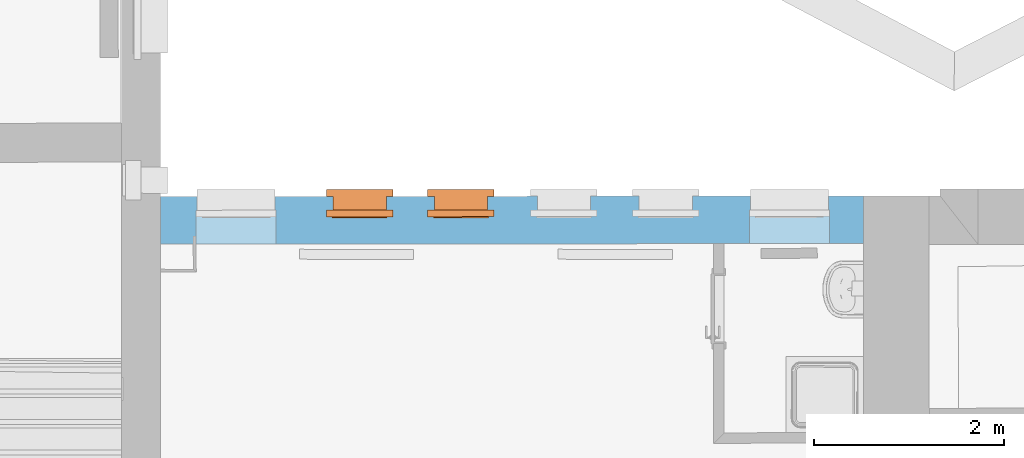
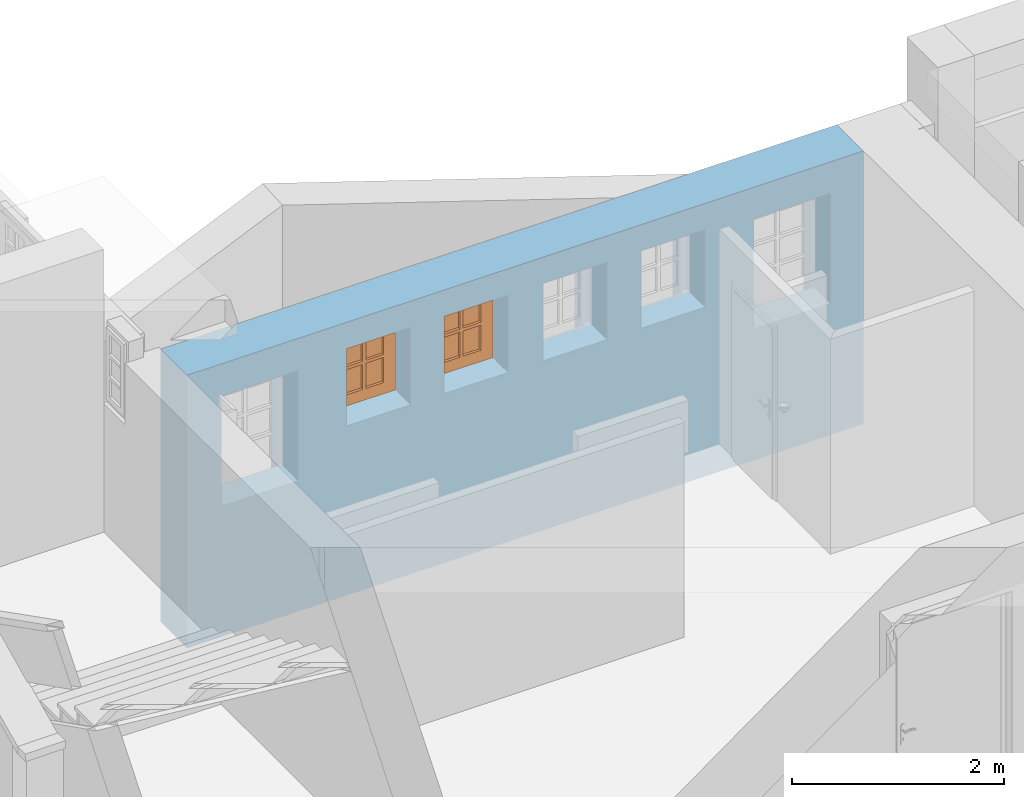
# One storey, part 44 of 196: 2 proxies, 6 openings, plus 1 element that does not belong to this part.
"""IFC2X3 building model written with IfcOpenShell, lengths in metres."""

from ifc_helpers import new_model, entity, si_unit, converted_unit, derived_unit, money_unit, direction, frame, origin_with_axes, origin_2d_with_axis, place, context, subcontext, project, spatial, polyline, rectangle, outline, extrude, boolean, faceted_brep, source, transform, mapped, material, type_object, element, fill, save


model = new_model("IFC2X3")

# Units and contexts
model_context = context("Model", 3, precision=1e-05, world=origin_with_axes(), true_north=direction((0.0, 1.0)))
body_context = subcontext(model_context, "Body", "Model", "MODEL_VIEW")
ifc_project = project(units=[si_unit("LENGTHUNIT", "METRE"), si_unit("AREAUNIT", "SQUARE_METRE"), si_unit("VOLUMEUNIT", "CUBIC_METRE"), converted_unit("PLANEANGLEUNIT", "DEGREE", entity("IfcPlaneAngleMeasure", 0.0174532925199), si_unit("PLANEANGLEUNIT", "RADIAN"), dimensions=[0, 0, 0, 0, 0, 0, 0]), money_unit("EUR"), converted_unit("TIMEUNIT", "Year", entity("IfcTimeMeasure", 31556926.0), si_unit("TIMEUNIT", "SECOND"), dimensions=[0, 0, 1, 0, 0, 0, 0]), si_unit("MASSUNIT", "GRAM", prefix="KILO"), si_unit("THERMODYNAMICTEMPERATUREUNIT", "DEGREE_CELSIUS"), si_unit("LUMINOUSINTENSITYUNIT", "LUMEN"), si_unit("ENERGYUNIT", "JOULE", prefix="MEGA"), derived_unit("THERMALCONDUCTANCEUNIT", [(si_unit("POWERUNIT", "WATT"), 1), (si_unit("LENGTHUNIT", "METRE"), -1), (si_unit("THERMODYNAMICTEMPERATUREUNIT", "KELVIN"), -1)]), derived_unit("SPECIFICHEATCAPACITYUNIT", [(si_unit("ENERGYUNIT", "JOULE"), 1), (si_unit("MASSUNIT", "GRAM", prefix="KILO"), -1), (si_unit("THERMODYNAMICTEMPERATUREUNIT", "KELVIN"), -1)]), derived_unit("MASSDENSITYUNIT", [(si_unit("MASSUNIT", "GRAM", prefix="KILO"), 1), (si_unit("VOLUMEUNIT", "CUBIC_METRE"), -1)])], contexts=[model_context])

# Site, building, storey
site_placement = place(None, origin_with_axes())
site = spatial("IfcSite", under=ifc_project, at=site_placement, Name="Gelände", CompositionType="ELEMENT")
building_placement = place(site_placement, origin_with_axes())
building = spatial("IfcBuilding", under=site, at=building_placement, Name="Gebäude", CompositionType="ELEMENT")
storey_placement = place(building_placement, frame((0.0, 0.0, -3.0), z_axis=(0.0, 0.0, 1.0), x_axis=(1.0, 0.0, 0.0)))
storey = spatial("IfcBuildingStorey", under=building, at=storey_placement, Name="KELLERGESCHOSS", CompositionType="ELEMENT", Elevation=-3.0)

# Wall, openings, proxies
ifc_material = material(Name="05_ALLGEMEIN - TRAGENDE BAUTEILE")
wall_type = type_object("IfcWallType", Name="05_ALLGEMEIN - TRAGENDE BAUTEILE 500", PredefinedType="ELEMENTEDWALL")
wall_placement = place(storey_placement, frame((3.61400674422, 26.1135259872, -0.36), z_axis=(0.0, 0.0, 1.0), x_axis=(-0.99999977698, -0.000667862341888, 0.0)))
wall = element("IfcWall", 1, at=wall_placement, inside=storey, type_object=wall_type, material=ifc_material, Name="Wand-030", ObjectType="ELEMENTEDWALL", context=body_context, shape_type="CSG", body=[
    boolean("DIFFERENCE", boolean("DIFFERENCE", extrude(outline(polyline([(-0.000183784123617, 0.0), (8.48688919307, 0.0), (8.48688919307, 0.5), (-0.000183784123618, 0.5), (-0.000183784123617, 0.0)])), origin_with_axes(), (0.0, 0.0, 1.0), 3.15), faceted_brep([(8.07688894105, 0.5, 3.15), (8.07633455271, 0.0, 3.15), (8.48688919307, 0.0, 3.15), (8.48688919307, 0.5, 3.15), (8.07633455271, 0.0, 0.0), (8.07688894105, 0.5, 0.0), (8.48688919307, 0.0, 0.0), (8.48688919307, 0.5, 0.0)], [[[0, 1, 2, 3]], [[4, 1, 0, 5]], [[1, 4, 6, 2]], [[2, 6, 7, 3]], [[5, 0, 3, 7]], [[4, 5, 7, 6]]])), faceted_brep([(0.690000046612, 0.0, 3.15), (0.689816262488, 0.5, 3.15), (-0.000183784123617, 0.5, 3.15), (-0.000183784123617, 0.0, 3.15), (0.689816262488, 0.5, 0.0), (0.690000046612, 0.0, 0.0), (-0.000183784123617, 0.5, 0.0), (-0.000183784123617, 0.0, 0.0)], [[[0, 1, 2, 3]], [[4, 1, 0, 5]], [[1, 4, 6, 2]], [[2, 6, 7, 3]], [[5, 0, 3, 7]], [[4, 5, 7, 6]]])),
])
opening_1_placement = place(wall_placement, frame((1.46772297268, 0.0, 1.51287387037), z_axis=(0.0, 0.0, 1.0), x_axis=(1.0, 0.0, 0.0)))
element("IfcOpeningElement", 2, at=opening_1_placement, cuts=wall, Name="Fenster-015", context=body_context, shape_type="SweptSolid", body=[
    extrude(rectangle(XDim=0.84, YDim=1.275, at=origin_2d_with_axis()), frame((0.0, 0.145, 0.6375), z_axis=(0.0, -1.0, 0.0), x_axis=(1.0, 0.0, 0.0)), (0.0, 0.0, -1.0), 0.855),
    extrude(rectangle(XDim=0.82, YDim=1.265, at=origin_2d_with_axis()), frame((0.0, 0.145, 0.6325), z_axis=(0.0, 1.0, 0.0), x_axis=(1.0, 0.0, 0.0)), (0.0, 0.0, -1.0), 0.645),
    extrude(rectangle(XDim=0.82, YDim=0.150945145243, at=origin_2d_with_axis()), frame((0.0, 0.18583778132, -0.0754725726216), z_axis=(0.0, 1.0, 0.0), x_axis=(1.0, 0.0, 0.0)), (0.0, 0.0, -1.0), 0.54083778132),
])
opening_2_placement = place(wall_placement, frame((7.28240772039, 0.0, 1.50385387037), z_axis=(0.0, 0.0, 1.0), x_axis=(1.0, 0.0, 0.0)))
element("IfcOpeningElement", 3, at=opening_2_placement, cuts=wall, Name="Fenster-015", context=body_context, shape_type="SweptSolid", body=[
    extrude(rectangle(XDim=0.84, YDim=1.275, at=origin_2d_with_axis()), frame((0.0, 0.145, 0.6375), z_axis=(0.0, -1.0, 0.0), x_axis=(1.0, 0.0, 0.0)), (0.0, 0.0, -1.0), 0.855),
    extrude(rectangle(XDim=0.82, YDim=1.265, at=origin_2d_with_axis()), frame((0.0, 0.145, 0.6325), z_axis=(0.0, 1.0, 0.0), x_axis=(1.0, 0.0, 0.0)), (0.0, 0.0, -1.0), 0.645),
    extrude(rectangle(XDim=0.82, YDim=0.150945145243, at=origin_2d_with_axis()), frame((0.0, 0.18583778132, -0.0754725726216), z_axis=(0.0, 1.0, 0.0), x_axis=(1.0, 0.0, 0.0)), (0.0, 0.0, -1.0), 0.54083778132),
])
opening_3_placement = place(wall_placement, frame((2.76771351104, 0.0, 1.95338403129), z_axis=(0.0, 0.0, 1.0), x_axis=(1.0, 0.0, 0.0)))
element("IfcOpeningElement", 4, at=opening_3_placement, cuts=wall, Name="Fenster-015", context=body_context, shape_type="SweptSolid", body=[
    extrude(rectangle(XDim=0.699, YDim=0.895160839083, at=origin_2d_with_axis()), frame((0.0, 0.145, 0.447580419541), z_axis=(0.0, -1.0, 0.0), x_axis=(1.0, 0.0, 0.0)), (0.0, 0.0, -1.0), 0.855),
    extrude(rectangle(XDim=0.559, YDim=0.825160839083, at=origin_2d_with_axis()), frame((0.0, 0.145, 0.412580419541), z_axis=(0.0, 1.0, 0.0), x_axis=(1.0, 0.0, 0.0)), (0.0, 0.0, -1.0), 0.645),
    extrude(rectangle(XDim=0.559, YDim=0.150945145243, at=origin_2d_with_axis()), frame((0.0, 0.18583778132, -0.0754725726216), z_axis=(0.0, 1.0, 0.0), x_axis=(1.0, 0.0, 0.0)), (0.0, 0.0, -1.0), 0.54083778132),
])
opening_4_placement = place(wall_placement, frame((3.8379340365, 0.0, 1.95338403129), z_axis=(0.0, 0.0, 1.0), x_axis=(1.0, 0.0, 0.0)))
element("IfcOpeningElement", 5, at=opening_4_placement, cuts=wall, Name="Fenster-015", context=body_context, shape_type="SweptSolid", body=[
    extrude(rectangle(XDim=0.699, YDim=0.895160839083, at=origin_2d_with_axis()), frame((0.0, 0.145, 0.447580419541), z_axis=(0.0, -1.0, 0.0), x_axis=(1.0, 0.0, 0.0)), (0.0, 0.0, -1.0), 0.855),
    extrude(rectangle(XDim=0.559, YDim=0.825160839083, at=origin_2d_with_axis()), frame((0.0, 0.145, 0.412580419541), z_axis=(0.0, 1.0, 0.0), x_axis=(1.0, 0.0, 0.0)), (0.0, 0.0, -1.0), 0.645),
    extrude(rectangle(XDim=0.559, YDim=0.150945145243, at=origin_2d_with_axis()), frame((0.0, 0.18583778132, -0.0754725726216), z_axis=(0.0, 1.0, 0.0), x_axis=(1.0, 0.0, 0.0)), (0.0, 0.0, -1.0), 0.54083778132),
])
opening_5_placement = place(wall_placement, frame((4.92027128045, 0.0, 1.95338403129), z_axis=(0.0, 0.0, 1.0), x_axis=(1.0, 0.0, 0.0)))
opening_5 = element("IfcOpeningElement", 6, at=opening_5_placement, cuts=wall, Name="Fenster-015", context=body_context, shape_type="SweptSolid", body=[
    extrude(rectangle(XDim=0.699, YDim=0.895160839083, at=origin_2d_with_axis()), frame((0.0, 0.145, 0.447580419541), z_axis=(0.0, -1.0, 0.0), x_axis=(1.0, 0.0, 0.0)), (0.0, 0.0, -1.0), 0.855),
    extrude(rectangle(XDim=0.559, YDim=0.825160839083, at=origin_2d_with_axis()), frame((0.0, 0.145, 0.412580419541), z_axis=(0.0, 1.0, 0.0), x_axis=(1.0, 0.0, 0.0)), (0.0, 0.0, -1.0), 0.645),
    extrude(rectangle(XDim=0.559, YDim=0.150945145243, at=origin_2d_with_axis()), frame((0.0, 0.18583778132, -0.0754725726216), z_axis=(0.0, 1.0, 0.0), x_axis=(1.0, 0.0, 0.0)), (0.0, 0.0, -1.0), 0.54083778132),
])
opening_6_placement = place(wall_placement, frame((5.9839098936, 0.0, 1.95338403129), z_axis=(0.0, 0.0, 1.0), x_axis=(1.0, 0.0, 0.0)))
opening_6 = element("IfcOpeningElement", 7, at=opening_6_placement, cuts=wall, Name="Fenster-015", context=body_context, shape_type="SweptSolid", body=[
    extrude(rectangle(XDim=0.699, YDim=0.895160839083, at=origin_2d_with_axis()), frame((0.0, 0.145, 0.447580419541), z_axis=(0.0, -1.0, 0.0), x_axis=(1.0, 0.0, 0.0)), (0.0, 0.0, -1.0), 0.855),
    extrude(rectangle(XDim=0.559, YDim=0.825160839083, at=origin_2d_with_axis()), frame((0.0, 0.145, 0.412580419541), z_axis=(0.0, 1.0, 0.0), x_axis=(1.0, 0.0, 0.0)), (0.0, 0.0, -1.0), 0.645),
    extrude(rectangle(XDim=0.559, YDim=0.150945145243, at=origin_2d_with_axis()), frame((0.0, 0.18583778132, -0.0754725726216), z_axis=(0.0, 1.0, 0.0), x_axis=(1.0, 0.0, 0.0)), (0.0, 0.0, -1.0), 0.54083778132),
])
building_element_proxy_type = type_object("IfcBuildingElementProxyType", Name="1-Flügelfenster 25", PredefinedType="NOTDEFINED")
shared_shape = source(origin_with_axes(), body_context, "Body", "Brep", [
    faceted_brep([(0.3495, -0.215, -0.150945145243), (0.3495, -0.215, -0.0290939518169), (0.3495, -0.28583778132, -0.0415845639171), (0.3495, -0.265, -0.159761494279), (0.2795, -0.215, -0.0290939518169), (0.2795, -0.215, -0.150945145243), (0.2795, -0.05, 0.0), (-0.2795, -0.05, 0.0), (-0.2795, -0.215, -0.0290939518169), (-0.3495, -0.215, -0.0290939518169), (-0.3495, -0.28583778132, -0.0415845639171), (-0.3495, -0.265, -0.159761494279), (-0.3495, -0.215, -0.150945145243), (-0.2795, -0.215, -0.150945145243), (-0.2795, -0.02916221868, -0.118176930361), (0.2795, -0.02916221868, -0.118176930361)], [[[0, 1, 2, 3]], [[4, 1, 0, 5]], [[4, 6, 7, 8, 9, 10, 2, 1]], [[3, 2, 10, 11]], [[5, 0, 3, 11, 12, 13, 14, 15]], [[15, 6, 4, 5]], [[6, 15, 14, 7]], [[7, 14, 13, 8]], [[8, 13, 12, 9]], [[12, 11, 10, 9]]]),
    faceted_brep([(-0.3495, -0.07, 0.0), (-0.3495, 0.0, 0.0), (-0.2695, 0.0, 0.08), (-0.2695, -0.07, 0.08), (-0.3495, -0.07, 0.895160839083), (-0.3495, 0.0, 0.895160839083), (-0.2695, 0.0, 0.815160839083), (-0.2695, -0.07, 0.815160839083)], [[[0, 1, 2, 3]], [[4, 5, 1, 0]], [[1, 5, 6, 2]], [[3, 2, 6, 7]], [[0, 3, 7, 4]], [[7, 6, 5, 4]]]),
    faceted_brep([(0.3495, -0.07, 0.0), (0.3495, 0.0, 0.0), (0.3495, 0.0, 0.895160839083), (0.3495, -0.07, 0.895160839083), (0.2695, -0.07, 0.08), (0.2695, 0.0, 0.08), (0.2695, 0.0, 0.815160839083), (0.2695, -0.07, 0.815160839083)], [[[0, 1, 2, 3]], [[4, 5, 1, 0]], [[1, 5, 6, 2]], [[3, 2, 6, 7]], [[0, 3, 7, 4]], [[7, 6, 5, 4]]]),
    faceted_brep([(-0.3495, -0.07, 0.0), (-0.3495, 0.0, 0.0), (0.3495, 0.0, 0.0), (0.3495, -0.07, 0.0), (-0.2695, -0.07, 0.08), (-0.2695, 0.0, 0.08), (0.0, 0.0, 0.08), (0.2695, 0.0, 0.08), (0.2695, -0.07, 0.08), (0.0, -0.07, 0.08)], [[[0, 1, 2, 3]], [[4, 5, 1, 0]], [[1, 5, 6, 7, 2]], [[3, 2, 7, 8]], [[0, 3, 8, 9, 4]], [[9, 6, 5, 4]], [[8, 7, 6, 9]]]),
    faceted_brep([(-0.3495, -0.07, 0.895160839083), (-0.3495, 0.0, 0.895160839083), (-0.2695, 0.0, 0.815160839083), (-0.2695, -0.07, 0.815160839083), (0.3495, -0.07, 0.895160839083), (0.3495, 0.0, 0.895160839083), (0.2695, 0.0, 0.815160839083), (0.0, 0.0, 0.815160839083), (0.0, -0.07, 0.815160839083), (0.2695, -0.07, 0.815160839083)], [[[0, 1, 2, 3]], [[4, 5, 1, 0]], [[1, 5, 6, 7, 2]], [[3, 2, 7, 8]], [[0, 3, 8, 9, 4]], [[9, 6, 5, 4]], [[8, 7, 6, 9]]]),
    faceted_brep([(-0.2895, 0.0, 0.06), (-0.2895, 0.013, 0.06), (-0.2095, 0.013, 0.14), (-0.2095, 0.0, 0.14), (-0.2895, 0.0, 0.835160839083), (-0.2895, 0.013, 0.835160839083), (-0.2095, 0.013, 0.755160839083), (-0.2095, 0.0, 0.755160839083)], [[[0, 1, 2, 3]], [[4, 5, 1, 0]], [[1, 5, 6, 2]], [[3, 2, 6, 7]], [[0, 3, 7, 4]], [[7, 6, 5, 4]]]),
    faceted_brep([(0.2895, 0.0, 0.06), (0.2095, 0.0, 0.14), (0.2095, 0.013, 0.14), (0.2895, 0.013, 0.06), (0.2895, 0.0, 0.835160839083), (0.2095, 0.0, 0.755160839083), (0.2095, 0.013, 0.755160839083), (0.2895, 0.013, 0.835160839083)], [[[0, 1, 2, 3]], [[0, 4, 5, 1]], [[1, 5, 6, 2]], [[3, 2, 6, 7]], [[4, 0, 3, 7]], [[5, 4, 7, 6]]]),
    faceted_brep([(-0.2895, 0.0, 0.06), (-0.2895, 0.013, 0.06), (0.2895, 0.013, 0.06), (0.2895, 0.0, 0.06), (-0.2095, 0.0, 0.14), (-0.2095, 0.013, 0.14), (0.2095, 0.013, 0.14), (0.2095, 0.0, 0.14)], [[[0, 1, 2, 3]], [[4, 5, 1, 0]], [[1, 5, 6, 2]], [[3, 2, 6, 7]], [[0, 3, 7, 4]], [[7, 6, 5, 4]]]),
    faceted_brep([(-0.2895, 0.0, 0.835160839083), (0.2895, 0.0, 0.835160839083), (0.2895, 0.013, 0.835160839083), (-0.2895, 0.013, 0.835160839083), (-0.2095, 0.0, 0.755160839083), (0.2095, 0.0, 0.755160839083), (0.2095, 0.013, 0.755160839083), (-0.2095, 0.013, 0.755160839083)], [[[0, 1, 2, 3]], [[0, 4, 5, 1]], [[1, 5, 6, 2]], [[3, 2, 6, 7]], [[4, 0, 3, 7]], [[5, 4, 7, 6]]]),
    faceted_brep([(-0.2695, -0.057, 0.08), (-0.2695, 0.0, 0.08), (-0.2095, 0.0, 0.14), (-0.2095, -0.057, 0.14), (-0.2695, -0.057, 0.815160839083), (-0.2695, 0.0, 0.815160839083), (-0.2095, 0.0, 0.755160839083), (-0.2095, -0.057, 0.755160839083)], [[[0, 1, 2, 3]], [[4, 5, 1, 0]], [[1, 5, 6, 2]], [[3, 2, 6, 7]], [[0, 3, 7, 4]], [[7, 6, 5, 4]]]),
    faceted_brep([(0.2695, -0.057, 0.08), (0.2095, -0.057, 0.14), (0.2095, 0.0, 0.14), (0.2695, 0.0, 0.08), (0.2695, -0.057, 0.815160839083), (0.2095, -0.057, 0.755160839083), (0.2095, 0.0, 0.755160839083), (0.2695, 0.0, 0.815160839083)], [[[0, 1, 2, 3]], [[0, 4, 5, 1]], [[1, 5, 6, 2]], [[3, 2, 6, 7]], [[4, 0, 3, 7]], [[5, 4, 7, 6]]]),
    faceted_brep([(-0.2695, -0.057, 0.08), (-0.2695, 0.0, 0.08), (0.2695, 0.0, 0.08), (0.2695, -0.057, 0.08), (-0.2095, -0.057, 0.14), (-0.2095, 0.0, 0.14), (0.2095, 0.0, 0.14), (0.2095, -0.057, 0.14)], [[[0, 1, 2, 3]], [[4, 5, 1, 0]], [[1, 5, 6, 2]], [[3, 2, 6, 7]], [[0, 3, 7, 4]], [[7, 6, 5, 4]]]),
    faceted_brep([(-0.2695, -0.057, 0.815160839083), (0.2695, -0.057, 0.815160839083), (0.2695, 0.0, 0.815160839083), (-0.2695, 0.0, 0.815160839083), (-0.2095, -0.057, 0.755160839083), (0.2095, -0.057, 0.755160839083), (0.2095, 0.0, 0.755160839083), (-0.2095, 0.0, 0.755160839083)], [[[0, 1, 2, 3]], [[0, 4, 5, 1]], [[1, 5, 6, 2]], [[3, 2, 6, 7]], [[4, 0, 3, 7]], [[5, 4, 7, 6]]]),
    faceted_brep([(-0.0175, -0.057, 0.14), (-0.0175, -0.022, 0.14), (0.0175, -0.022, 0.14), (0.0175, -0.057, 0.14), (-0.0175, -0.057, 0.755160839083), (-0.0175, -0.022, 0.755160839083), (0.0175, -0.022, 0.755160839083), (0.0175, -0.057, 0.755160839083)], [[[0, 1, 2, 3]], [[4, 5, 1, 0]], [[1, 5, 6, 2]], [[3, 2, 6, 7]], [[0, 3, 7, 4]], [[7, 6, 5, 4]]]),
    faceted_brep([(-0.0175, -0.022, 0.14), (-0.0175, 0.013, 0.14), (0.0175, 0.013, 0.14), (0.0175, -0.022, 0.14), (-0.0175, -0.022, 0.755160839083), (-0.0175, 0.013, 0.755160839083), (0.0175, 0.013, 0.755160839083), (0.0175, -0.022, 0.755160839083)], [[[0, 1, 2, 3]], [[4, 5, 1, 0]], [[1, 5, 6, 2]], [[3, 2, 6, 7]], [[0, 3, 7, 4]], [[7, 6, 5, 4]]]),
    faceted_brep([(-0.0175, -0.057, 0.430080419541), (-0.0175, -0.057, 0.465080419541), (-0.2095, -0.057, 0.465080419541), (-0.2095, -0.057, 0.430080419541), (-0.0175, -0.022, 0.465080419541), (-0.0175, -0.022, 0.430080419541), (-0.2095, -0.022, 0.465080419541), (-0.2095, -0.022, 0.430080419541)], [[[0, 1, 2, 3]], [[4, 1, 0, 5]], [[1, 4, 6, 2]], [[6, 7, 3, 2]], [[5, 0, 3, 7]], [[4, 5, 7, 6]]]),
    faceted_brep([(0.0175, -0.022, 0.465080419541), (0.0175, -0.057, 0.465080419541), (0.2095, -0.057, 0.465080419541), (0.2095, -0.022, 0.465080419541), (0.0175, -0.057, 0.430080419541), (0.0175, -0.022, 0.430080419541), (0.2095, -0.057, 0.430080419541), (0.2095, -0.022, 0.430080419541)], [[[0, 1, 2, 3]], [[4, 1, 0, 5]], [[1, 4, 6, 2]], [[7, 3, 2, 6]], [[5, 0, 3, 7]], [[4, 5, 7, 6]]]),
    faceted_brep([(-0.0175, -0.022, 0.430080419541), (-0.0175, -0.022, 0.465080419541), (-0.2095, -0.022, 0.465080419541), (-0.2095, -0.022, 0.430080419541), (-0.0175, 0.013, 0.465080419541), (-0.0175, 0.013, 0.430080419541), (-0.2095, 0.013, 0.465080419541), (-0.2095, 0.013, 0.430080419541)], [[[0, 1, 2, 3]], [[4, 1, 0, 5]], [[1, 4, 6, 2]], [[6, 7, 3, 2]], [[5, 0, 3, 7]], [[4, 5, 7, 6]]]),
    faceted_brep([(0.0175, 0.013, 0.465080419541), (0.0175, -0.022, 0.465080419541), (0.2095, -0.022, 0.465080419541), (0.2095, 0.013, 0.465080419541), (0.0175, -0.022, 0.430080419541), (0.0175, 0.013, 0.430080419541), (0.2095, -0.022, 0.430080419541), (0.2095, 0.013, 0.430080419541)], [[[0, 1, 2, 3]], [[4, 1, 0, 5]], [[1, 4, 6, 2]], [[7, 3, 2, 6]], [[5, 0, 3, 7]], [[4, 5, 7, 6]]]),
    faceted_brep([(0.2095, -0.017, 0.430080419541), (0.2095, -0.027, 0.430080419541), (0.2095, -0.027, 0.14), (0.2095, -0.017, 0.14), (0.0175, -0.027, 0.430080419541), (0.0175, -0.017, 0.430080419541), (0.0175, -0.027, 0.14), (0.0175, -0.017, 0.14)], [[[0, 1, 2, 3]], [[4, 1, 0, 5]], [[1, 4, 6, 2]], [[7, 3, 2, 6]], [[5, 0, 3, 7]], [[4, 5, 7, 6]]]),
    faceted_brep([(-0.0175, -0.017, 0.430080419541), (-0.0175, -0.027, 0.430080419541), (-0.0175, -0.027, 0.14), (-0.0175, -0.017, 0.14), (-0.2095, -0.027, 0.430080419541), (-0.2095, -0.017, 0.430080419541), (-0.2095, -0.027, 0.14), (-0.2095, -0.017, 0.14)], [[[0, 1, 2, 3]], [[4, 1, 0, 5]], [[1, 4, 6, 2]], [[2, 6, 7, 3]], [[5, 0, 3, 7]], [[4, 5, 7, 6]]]),
    faceted_brep([(0.0175, -0.027, 0.465080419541), (0.2095, -0.027, 0.465080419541), (0.2095, -0.027, 0.755160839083), (0.0175, -0.027, 0.755160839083), (0.2095, -0.017, 0.465080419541), (0.0175, -0.017, 0.465080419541), (0.2095, -0.017, 0.755160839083), (0.0175, -0.017, 0.755160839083)], [[[0, 1, 2, 3]], [[4, 1, 0, 5]], [[1, 4, 6, 2]], [[3, 2, 6, 7]], [[5, 0, 3, 7]], [[4, 5, 7, 6]]]),
    faceted_brep([(-0.2095, -0.027, 0.465080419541), (-0.0175, -0.027, 0.465080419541), (-0.0175, -0.027, 0.755160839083), (-0.2095, -0.027, 0.755160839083), (-0.0175, -0.017, 0.465080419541), (-0.2095, -0.017, 0.465080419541), (-0.0175, -0.017, 0.755160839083), (-0.2095, -0.017, 0.755160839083)], [[[0, 1, 2, 3]], [[4, 1, 0, 5]], [[1, 4, 6, 2]], [[6, 7, 3, 2]], [[5, 0, 3, 7]], [[4, 5, 7, 6]]]),
])
proxy_1_placement = place(opening_5_placement, frame((-0.3495, 0.0, 0.0), z_axis=(0.0, 0.0, 1.0), x_axis=(1.0, 0.0, 0.0)))
proxy_1 = element("IfcBuildingElementProxy", 8, at=proxy_1_placement, inside=storey, type_object=building_element_proxy_type, Name="Fenster-015", context=body_context, shape_type="MappedRepresentation", body=[
    mapped(shared_shape, transform((0.3495, 0.215, 0.0))),
])
fill(opening_5, proxy_1)
proxy_2_placement = place(opening_6_placement, frame((-0.3495, 0.0, 0.0), z_axis=(0.0, 0.0, 1.0), x_axis=(1.0, 0.0, 0.0)))
proxy_2 = element("IfcBuildingElementProxy", 9, at=proxy_2_placement, inside=storey, type_object=building_element_proxy_type, Name="Fenster-015", context=body_context, shape_type="MappedRepresentation", body=[
    mapped(shared_shape, transform((0.3495, 0.215, 0.0))),
])
fill(opening_6, proxy_2)

save(model, "model.ifc")
